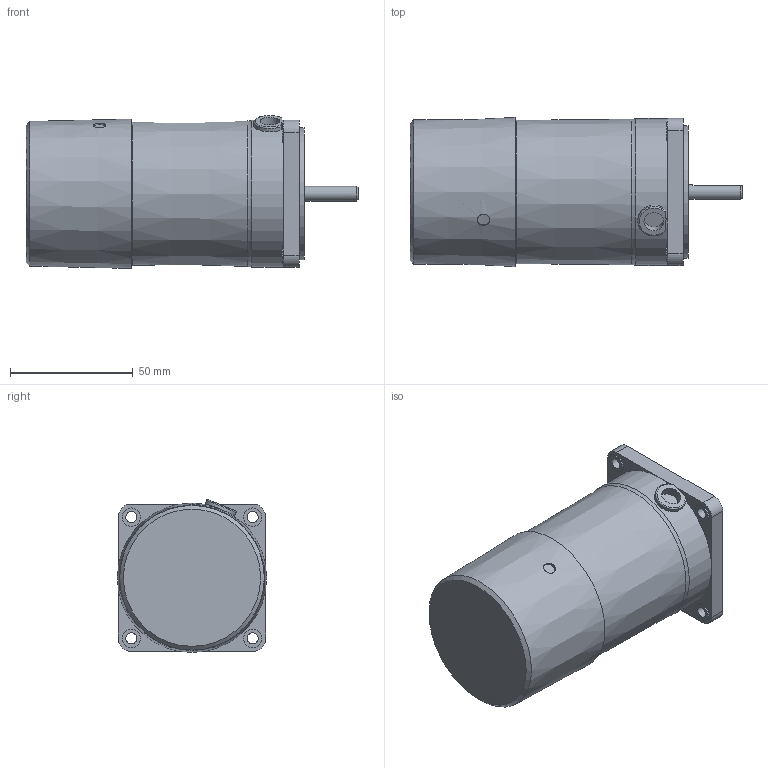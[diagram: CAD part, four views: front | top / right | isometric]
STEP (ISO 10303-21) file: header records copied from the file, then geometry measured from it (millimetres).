
FILE_DESCRIPTION((''),'2;1');
FILE_NAME('D:\STP파일\6W MOTOR\BLACK TYPE\S6R06D-E.stp','2013-05-20T15:48:08',('leebh'),(''),'Autodesk Inventor 2011','Autodesk Inventor 2011','');
FILE_SCHEMA(('AUTOMOTIVE_DESIGN { 1 0 10303 214 1 1 1 1 }'));
Length unit declared in the file: millimetre
Products named in the file (1): 부품1
Bounding box: 135.5 x 60.94 x 62.38 mm (x, y, z)
Volume: 313924.4 mm3; surface area: 31158.3 mm2
Topology: 1 solids, 3 shells, 87 faces, 211 edges, 138 vertices
Faces by surface type: plane 48, cylinder 32, cone 5, torus 2
Full cylindrical faces by diameter (mm): 4.5 x4, 5 x1, 6 x1, 7.5 x4, 8 x1, 10.1 x1, 25 x1, 54 x1, 58.5 x1, 60 x1
Entity records: 2584 total; most frequent: CARTESIAN_POINT 541, DIRECTION 433, ORIENTED_EDGE 374, EDGE_CURVE 187, AXIS2_PLACEMENT_3D 169, VERTEX_POINT 134, EDGE_LOOP 129, VECTOR 95
